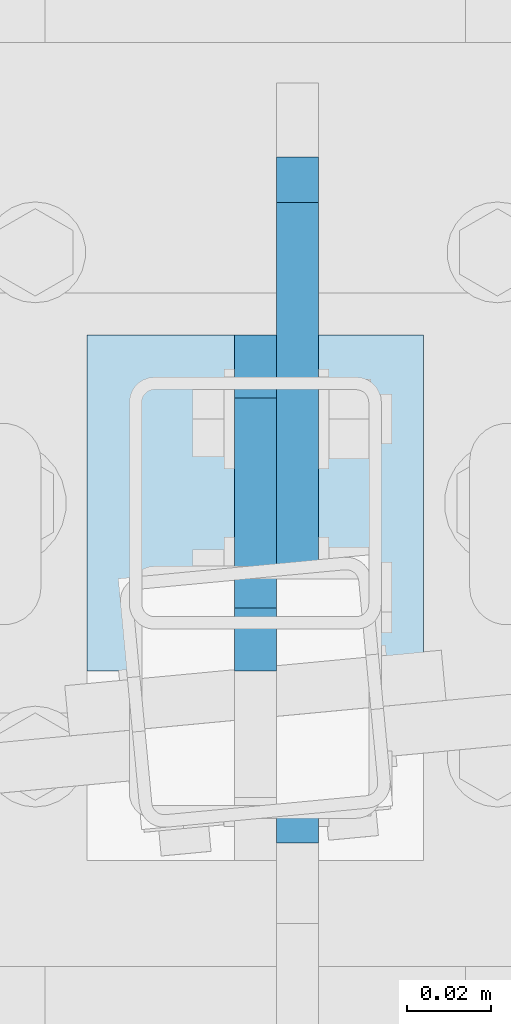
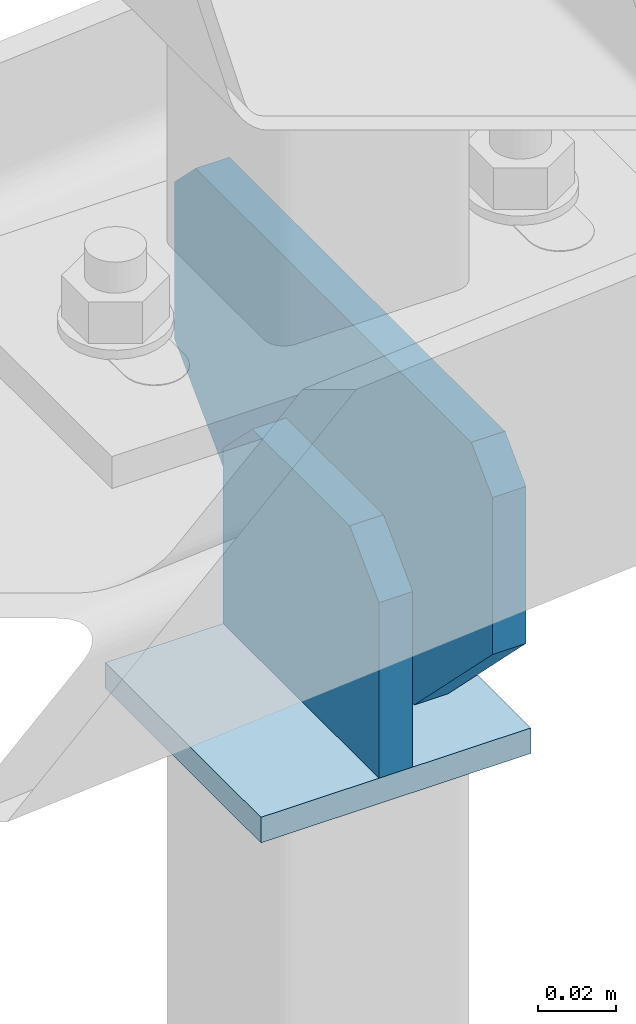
# One storey, part 180 of 271: 3 plates, 2 elements without a shape of their own.
"""IFC2X3 building model written with IfcOpenShell, lengths in millimetres."""

from ifc_helpers import new_model, si_unit, frame, origin_with_axes, place, context, subcontext, project, spatial, polyline, outline, extrude, material, type_object, element, aggregate, save


model = new_model("IFC2X3")

# Units and contexts
model_context = context("Model", 3, precision=1e-05, world=origin_with_axes())
body_context = subcontext(model_context, "Body", "Model", "MODEL_VIEW")
ifc_project = project(units=[si_unit("LENGTHUNIT", "METRE", prefix="MILLI"), si_unit("AREAUNIT", "SQUARE_METRE"), si_unit("VOLUMEUNIT", "CUBIC_METRE"), si_unit("MASSUNIT", "GRAM", prefix="KILO"), si_unit("TIMEUNIT", "SECOND"), si_unit("PLANEANGLEUNIT", "RADIAN"), si_unit("SOLIDANGLEUNIT", "STERADIAN"), si_unit("THERMODYNAMICTEMPERATUREUNIT", "DEGREE_CELSIUS"), si_unit("LUMINOUSINTENSITYUNIT", "LUMEN")], contexts=[model_context])

# Site, building, storey
site_placement = place(None, origin_with_axes())
site = spatial("IfcSite", under=ifc_project, at=site_placement, Name="Undefined", CompositionType="ELEMENT")
building_placement = place(site_placement, origin_with_axes())
building = spatial("IfcBuilding", under=site, at=building_placement, Name="Undefined", CompositionType="ELEMENT")
storey_placement = place(building_placement, origin_with_axes())
storey = spatial("IfcBuildingStorey", under=building, at=storey_placement, Name="Undefined", CompositionType="ELEMENT", Elevation=0.0)

# Assembly, plate
assembly_1_placement = place(storey_placement, origin_with_axes())
assembly_1 = element("IfcElementAssembly", 1, at=assembly_1_placement, inside=storey, AssemblyPlace="NOTDEFINED", PredefinedType="RIGID_FRAME")
ifc_material = material(Name="STEEL/S355JR")
plate_type_1 = type_object("IfcPlateType", Name="BL10*70", PredefinedType="NOTDEFINED")
plate_1_placement = place(assembly_1_placement, frame((9528.37568709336, 4010.32498425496, 19936.399999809), z_axis=(-1.0, 0.0, 1.38777878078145e-17), x_axis=(0.0, 0.707106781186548, 0.707106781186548)))
plate_1 = element("IfcPlate", 2, at=plate_1_placement, type_object=plate_type_1, material=ifc_material, Name="BLACHA", ObjectType="BL10*70", context=body_context, shape_type="SweptSolid", body=[
    extrude(outline(polyline([(0.0, 0.0), (21.2132034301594, 1.09139364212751e-11), (56.5685424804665, 35.3553390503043), (56.568542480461, 56.5685424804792), (17.6776695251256, 95.4594192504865), (-38.890872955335, 38.8908729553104), (0.0, 0.0)])), frame((0.0, 0.0, -5.0), z_axis=(0.0, 0.0, 1.0), x_axis=(1.0, 0.0, 0.0)), (0.0, 0.0, 1.0), 10.0),
])

assembly_2_placement = place(storey_placement, origin_with_axes())
assembly_2 = element("IfcElementAssembly", 3, at=assembly_2_placement, inside=storey, AssemblyPlace="NOTDEFINED", PredefinedType="RIGID_FRAME")
plate_type_2 = type_object("IfcPlateType", Name="BL10*100", PredefinedType="NOTDEFINED")
plate_2_placement = place(assembly_2_placement, frame((9538.37568709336, 4132.65999388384, 20001.399999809), z_axis=(-1.0, 0.0, 1.38777878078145e-17), x_axis=(0.0, 0.0, -1.0)))
plate_2 = element("IfcPlate", 4, at=plate_2_placement, type_object=plate_type_2, material=ifc_material, Name="BLACHA", ObjectType="BL10*100", context=body_context, shape_type="SweptSolid", body=[
    extrude(outline(polyline([(0.0, 10.7716979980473), (10.7716979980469, 4.44089209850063e-13), (60.0, 4.44089209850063e-13), (100.0, 40.0000000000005), (100.0, 123.184783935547), (60.0, 163.184783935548), (10.7716979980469, 163.184783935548), (0.0, 152.413085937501), (0.0, 10.7716979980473)])), frame((0.0, 0.0, -5.0), z_axis=(0.0, 0.0, 1.0), x_axis=(1.0, 0.0, 0.0)), (0.0, 0.0, 1.0), 10.0),
])
aggregate(assembly_2, [plate_2])

# Plate
plate_type_3 = type_object("IfcPlateType", Name="BL8*80", PredefinedType="NOTDEFINED")
plate_3_placement = place(assembly_1_placement, frame((9568.37568709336, 4010.32498425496, 19877.399999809), z_axis=(0.0, 0.0, 1.0), x_axis=(0.0, 1.0, 0.0)))
plate_3 = element("IfcPlate", 5, at=plate_3_placement, type_object=plate_type_3, material=ifc_material, Name="BLACHA", ObjectType="BL8*80", context=body_context, shape_type="SweptSolid", body=[
    extrude(outline(polyline([(0.0, 0.0), (80.0, 0.0), (80.0, 80.0), (0.0, 80.0), (0.0, 0.0)])), frame((0.0, 0.0, -4.0), z_axis=(0.0, 0.0, 1.0), x_axis=(1.0, 0.0, 0.0)), (0.0, 0.0, 1.0), 8.0),
])

aggregate(assembly_1, [plate_3, plate_1])

save(model, "model.ifc")
